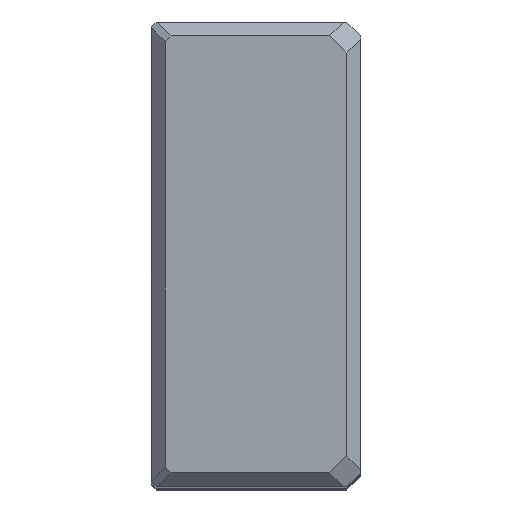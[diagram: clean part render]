
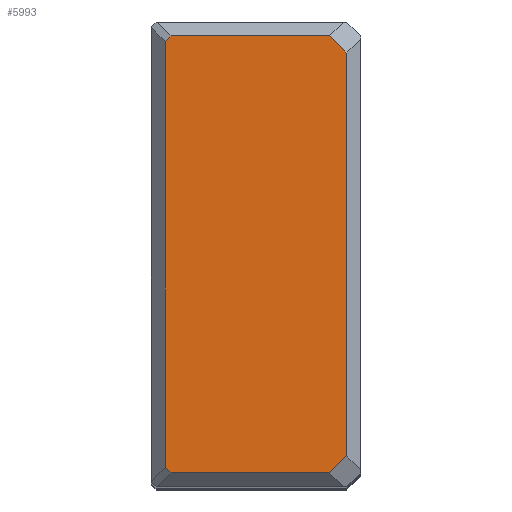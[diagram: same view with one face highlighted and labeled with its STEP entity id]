
A CAD part, top view. The second image highlights one B-rep face of the part: STEP entity #5993.
In plain terms, the highlighted planar face has unit normal (0, 0, 1).
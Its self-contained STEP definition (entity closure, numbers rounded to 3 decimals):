
#95=VERTEX_POINT(' ',#96);
#96=CARTESIAN_POINT('',(-3.,-43.326,0.));
#97=VERTEX_POINT(' ',#98);
#98=CARTESIAN_POINT('',(-6.674,-47.,0.));
#127=VERTEX_POINT(' ',#128);
#128=CARTESIAN_POINT('',(-3.,43.326,0.));
#135=VERTEX_POINT(' ',#136);
#136=CARTESIAN_POINT('',(-6.674,47.,0.));
#161=VERTEX_POINT(' ',#162);
#162=CARTESIAN_POINT('',(-40.775,-47.,0.));
#169=VERTEX_POINT(' ',#170);
#170=CARTESIAN_POINT('',(-42.,-45.775,0.));
#189=VERTEX_POINT(' ',#190);
#190=CARTESIAN_POINT('',(-42.,45.775,0.));
#193=VERTEX_POINT(' ',#194);
#194=CARTESIAN_POINT('',(-40.775,47.,0.));
#1200=LINE('',#1201,#1202);
#1201=CARTESIAN_POINT('',(20.163,-20.163,0.));
#1202=VECTOR('',#1203,1.);
#1203=DIRECTION('',(0.707,0.707,0.));
#1204=EDGE_CURVE(' ',#95,#97,#1200,.F.);
#1330=LINE('',#1331,#1332);
#1331=CARTESIAN_POINT('',(-3.,-50.12,0.));
#1332=VECTOR('',#1333,1.);
#1333=DIRECTION('',(0.,1.,0.));
#1334=EDGE_CURVE(' ',#95,#127,#1330,.T.);
#1355=LINE('',#1356,#1357);
#1356=CARTESIAN_POINT('',(20.163,20.163,0.));
#1357=VECTOR('',#1358,1.);
#1358=DIRECTION('',(-0.707,0.707,0.));
#1359=EDGE_CURVE(' ',#135,#127,#1355,.F.);
#1500=LINE('',#1501,#1502);
#1501=CARTESIAN_POINT('',(-45.12,-47.,0.));
#1502=VECTOR('',#1503,1.);
#1503=DIRECTION('',(1.,0.,0.));
#1504=EDGE_CURVE(' ',#161,#97,#1500,.T.);
#1515=LINE('',#1516,#1517);
#1516=CARTESIAN_POINT('',(-43.888,-43.888,0.));
#1517=VECTOR('',#1518,1.);
#1518=DIRECTION('',(0.707,-0.707,0.));
#1519=EDGE_CURVE(' ',#161,#169,#1515,.F.);
#1612=LINE('',#1613,#1614);
#1613=CARTESIAN_POINT('',(-42.,-50.12,0.));
#1614=VECTOR('',#1615,1.);
#1615=DIRECTION('',(0.,1.,0.));
#1616=EDGE_CURVE(' ',#169,#189,#1612,.T.);
#1617=LINE('',#1618,#1619);
#1618=CARTESIAN_POINT('',(-43.888,43.888,0.));
#1619=VECTOR('',#1620,1.);
#1620=DIRECTION('',(-0.707,-0.707,0.));
#1621=EDGE_CURVE(' ',#189,#193,#1617,.F.);
#1622=LINE('',#1623,#1624);
#1623=CARTESIAN_POINT('',(-45.12,47.,0.));
#1624=VECTOR('',#1625,1.);
#1625=DIRECTION('',(1.,0.,0.));
#1626=EDGE_CURVE(' ',#135,#193,#1622,.F.);
#5978=ORIENTED_EDGE('',*,*,#1621,.F.);
#5979=ORIENTED_EDGE('',*,*,#1616,.F.);
#5980=ORIENTED_EDGE('',*,*,#1519,.F.);
#5981=ORIENTED_EDGE('',*,*,#1504,.T.);
#5982=ORIENTED_EDGE('',*,*,#1204,.F.);
#5983=ORIENTED_EDGE('',*,*,#1334,.T.);
#5984=ORIENTED_EDGE('',*,*,#1359,.F.);
#5985=ORIENTED_EDGE('',*,*,#1626,.T.);
#5986=EDGE_LOOP('',(#5978,#5979,#5980,#5981,#5982,#5983,#5984,#5985));
#5987=FACE_OUTER_BOUND('',#5986,.T.);
#5988=PLANE('',#5989);
#5989=AXIS2_PLACEMENT_3D('',#5990,#5991,#5992);
#5990=CARTESIAN_POINT('',(-42.,0.,0.));
#5991=DIRECTION('',(0.,0.,1.));
#5992=DIRECTION('',(1.,0.,0.));
#5993=ADVANCED_FACE('',(#5987),#5988,.T.);
